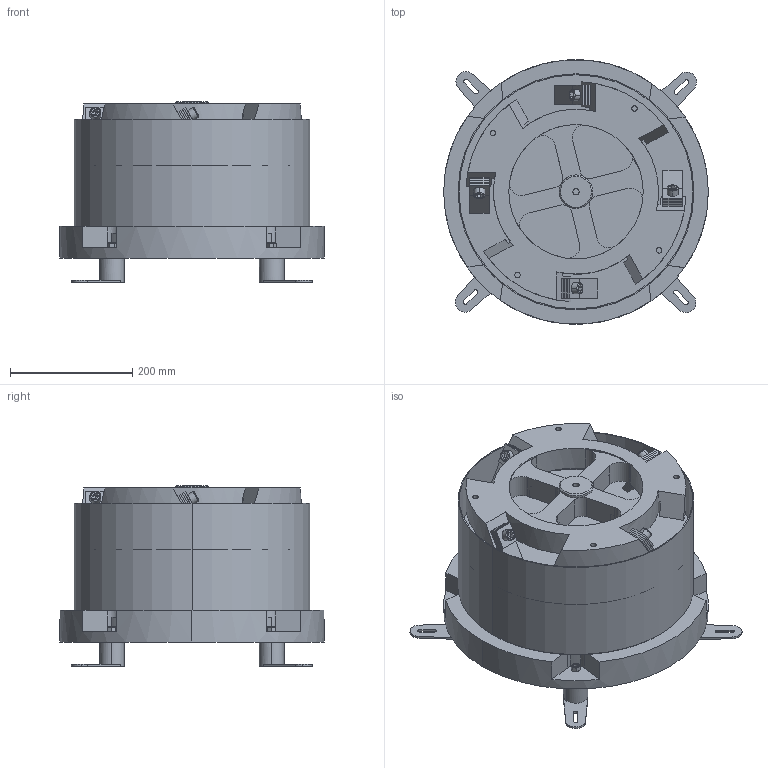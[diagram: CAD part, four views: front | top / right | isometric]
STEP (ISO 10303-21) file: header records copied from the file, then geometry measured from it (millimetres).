
FILE_DESCRIPTION (( 'STEP AP214' ), '1' );
FILE_NAME ('DA400 Ìú¸Ç2302.STEP', '2023-10-04T06:19:51', ( '' ), ( '' ), 'SwSTEP 2.0', 'SolidWorks 2022', '' );
FILE_SCHEMA (( 'AUTOMOTIVE_DESIGN' ));
Length unit declared in the file: millimetre
Products named in the file (1): DA400  沺裔2302
Bounding box: 433 x 433 x 296 mm (x, y, z)
Volume: 21777979.7 mm3; surface area: 1320300.1 mm2
Topology: 27 solids, 35 shells, 588 faces, 1405 edges, 904 vertices
Faces by surface type: plane 319, cylinder 195, cone 60, bspline 14
Entity records: 17641 total; most frequent: CARTESIAN_POINT 3364, DIRECTION 3001, ORIENTED_EDGE 2794, EDGE_CURVE 1397, AXIS2_PLACEMENT_3D 1117, VERTEX_POINT 904, VECTOR 767, LINE 767
